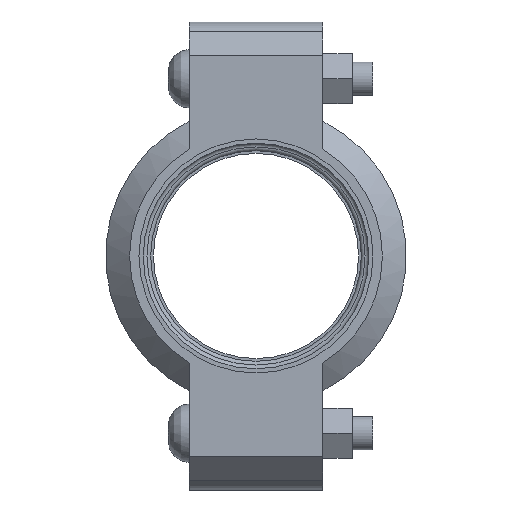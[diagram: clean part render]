
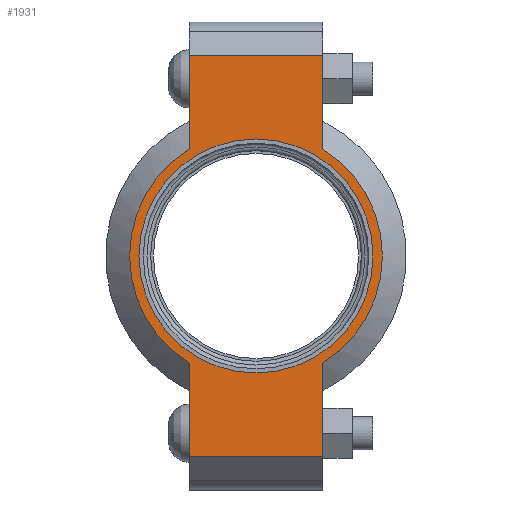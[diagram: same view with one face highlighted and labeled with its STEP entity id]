
A CAD part, left-side view. The second image highlights one B-rep face of the part: STEP entity #1931.
In plain terms, the highlighted planar face has unit normal (-1, 0, 0) as drawn and (0, 0, 1) by its records, which use the part's own axes.
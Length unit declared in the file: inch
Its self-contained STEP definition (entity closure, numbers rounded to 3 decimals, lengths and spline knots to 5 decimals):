
#120=LINE('',#3423,#217);
#128=LINE('',#3459,#225);
#135=LINE('',#3480,#232);
#144=LINE('',#3512,#241);
#145=LINE('',#3516,#242);
#146=LINE('',#3518,#243);
#217=VECTOR('',#2795,0.3937);
#225=VECTOR('',#2811,0.3937);
#232=VECTOR('',#2830,0.3937);
#241=VECTOR('',#2855,0.3937);
#242=VECTOR('',#2860,0.3937);
#243=VECTOR('',#2861,0.3937);
#299=FACE_BOUND('',#549,.T.);
#343=PLANE('',#2270);
#431=FACE_OUTER_BOUND('',#548,.T.);
#548=EDGE_LOOP('',(#1652,#1653,#1654,#1655,#1656,#1657,#1658,#1659));
#549=EDGE_LOOP('',(#1660));
#721=CIRCLE('',#2271,1.89);
#722=CIRCLE('',#2272,1.89);
#723=CIRCLE('',#2273,1.75);
#885=VERTEX_POINT('',#3420);
#886=VERTEX_POINT('',#3422);
#897=VERTEX_POINT('',#3454);
#898=VERTEX_POINT('',#3458);
#905=VERTEX_POINT('',#3477);
#906=VERTEX_POINT('',#3479);
#916=VERTEX_POINT('',#3515);
#917=VERTEX_POINT('',#3517);
#918=VERTEX_POINT('',#3520);
#1130=EDGE_CURVE('',#886,#885,#120,.T.);
#1144=EDGE_CURVE('',#898,#897,#128,.T.);
#1154=EDGE_CURVE('',#906,#905,#135,.T.);
#1169=EDGE_CURVE('',#898,#885,#144,.T.);
#1170=EDGE_CURVE('',#897,#906,#721,.T.);
#1171=EDGE_CURVE('',#916,#905,#145,.T.);
#1172=EDGE_CURVE('',#916,#917,#146,.T.);
#1173=EDGE_CURVE('',#917,#886,#722,.T.);
#1174=EDGE_CURVE('',#918,#918,#723,.T.);
#1652=ORIENTED_EDGE('',*,*,#1169,.F.);
#1653=ORIENTED_EDGE('',*,*,#1144,.T.);
#1654=ORIENTED_EDGE('',*,*,#1170,.T.);
#1655=ORIENTED_EDGE('',*,*,#1154,.T.);
#1656=ORIENTED_EDGE('',*,*,#1171,.F.);
#1657=ORIENTED_EDGE('',*,*,#1172,.T.);
#1658=ORIENTED_EDGE('',*,*,#1173,.T.);
#1659=ORIENTED_EDGE('',*,*,#1130,.T.);
#1660=ORIENTED_EDGE('',*,*,#1174,.T.);
#1931=ADVANCED_FACE('',(#431,#299),#343,.T.);
#2270=AXIS2_PLACEMENT_3D('',#3513,#2856,#2857);
#2271=AXIS2_PLACEMENT_3D('',#3514,#2858,#2859);
#2272=AXIS2_PLACEMENT_3D('',#3519,#2862,#2863);
#2273=AXIS2_PLACEMENT_3D('',#3521,#2864,#2865);
#2795=DIRECTION('',(1.,0.,0.));
#2811=DIRECTION('',(-1.,0.,0.));
#2830=DIRECTION('',(-1.,0.,0.));
#2855=DIRECTION('',(0.,-1.,0.));
#2856=DIRECTION('center_axis',(0.,0.,1.));
#2857=DIRECTION('ref_axis',(-1.,0.,0.));
#2858=DIRECTION('center_axis',(0.,0.,1.));
#2859=DIRECTION('ref_axis',(1.,0.,0.));
#2860=DIRECTION('',(0.,1.,0.));
#2861=DIRECTION('',(1.,0.,0.));
#2862=DIRECTION('center_axis',(0.,0.,1.));
#2863=DIRECTION('ref_axis',(1.,0.,0.));
#2864=DIRECTION('center_axis',(0.,0.,-1.));
#2865=DIRECTION('ref_axis',(1.,0.,0.));
#3420=CARTESIAN_POINT('',(3.,-1.,0.94));
#3422=CARTESIAN_POINT('',(1.60378,-1.,0.94));
#3423=CARTESIAN_POINT('',(3.5,-1.,0.94));
#3454=CARTESIAN_POINT('',(1.60378,1.,0.94));
#3458=CARTESIAN_POINT('',(3.,1.,0.94));
#3459=CARTESIAN_POINT('',(-3.5,1.,0.94));
#3477=CARTESIAN_POINT('',(-3.,1.,0.94));
#3479=CARTESIAN_POINT('',(-1.60378,1.,0.94));
#3480=CARTESIAN_POINT('',(-3.5,1.,0.94));
#3512=CARTESIAN_POINT('',(3.,-0.5,0.94));
#3513=CARTESIAN_POINT('Origin',(0.,0.,
0.94));
#3514=CARTESIAN_POINT('Origin',(0.,0.,0.94));
#3515=CARTESIAN_POINT('',(-3.,-1.,0.94));
#3516=CARTESIAN_POINT('',(-3.,0.5,0.94));
#3517=CARTESIAN_POINT('',(-1.60378,-1.,0.94));
#3518=CARTESIAN_POINT('',(3.5,-1.,0.94));
#3519=CARTESIAN_POINT('Origin',(0.,0.,0.94));
#3520=CARTESIAN_POINT('',(-1.75,0.,0.94));
#3521=CARTESIAN_POINT('Origin',(0.,0.,0.94));
